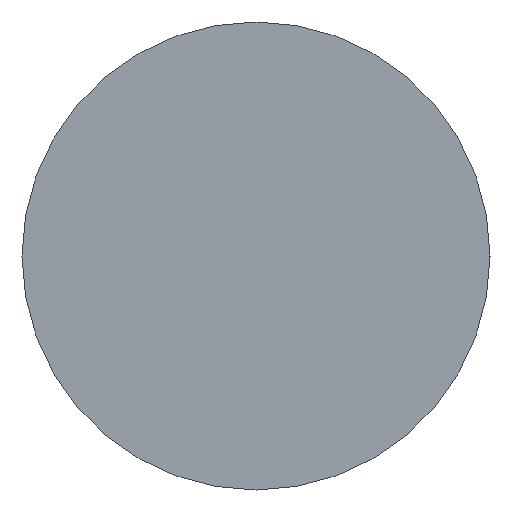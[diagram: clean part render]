
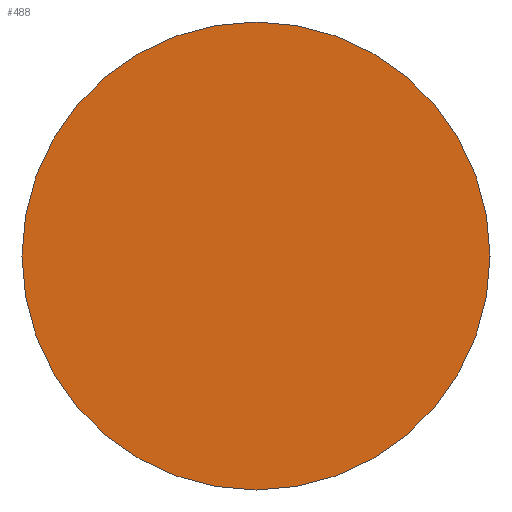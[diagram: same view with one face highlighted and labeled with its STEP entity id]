
A CAD part, left-side view. The second image highlights one B-rep face of the part: STEP entity #488.
In plain terms, the highlighted planar face has unit normal (-1, 0, 0).
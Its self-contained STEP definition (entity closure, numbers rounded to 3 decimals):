
#16=PLANE('',#574);
#44=FACE_OUTER_BOUND('',#68,.T.);
#68=EDGE_LOOP('',(#410,#411));
#152=CIRCLE('',#575,4.);
#153=CIRCLE('',#576,4.);
#210=VERTEX_POINT('',#901);
#211=VERTEX_POINT('',#902);
#281=EDGE_CURVE('',#210,#211,#152,.T.);
#282=EDGE_CURVE('',#211,#210,#153,.T.);
#410=ORIENTED_EDGE('',*,*,#281,.F.);
#411=ORIENTED_EDGE('',*,*,#282,.F.);
#488=ADVANCED_FACE('',(#44),#16,.T.);
#574=AXIS2_PLACEMENT_3D('',#900,#731,#732);
#575=AXIS2_PLACEMENT_3D('',#903,#733,#734);
#576=AXIS2_PLACEMENT_3D('',#904,#735,#736);
#731=DIRECTION('center_axis',(-1.,0.,0.));
#732=DIRECTION('ref_axis',(0.,0.,1.));
#733=DIRECTION('center_axis',(1.,0.,0.));
#734=DIRECTION('ref_axis',(0.,0.,-1.));
#735=DIRECTION('center_axis',(1.,0.,0.));
#736=DIRECTION('ref_axis',(0.,0.,-1.));
#900=CARTESIAN_POINT('Origin',(0.,4.,0.));
#901=CARTESIAN_POINT('',(0.,4.,0.));
#902=CARTESIAN_POINT('',(0.,-4.,0.));
#903=CARTESIAN_POINT('Origin',(0.,0.,0.));
#904=CARTESIAN_POINT('Origin',(0.,0.,0.));
